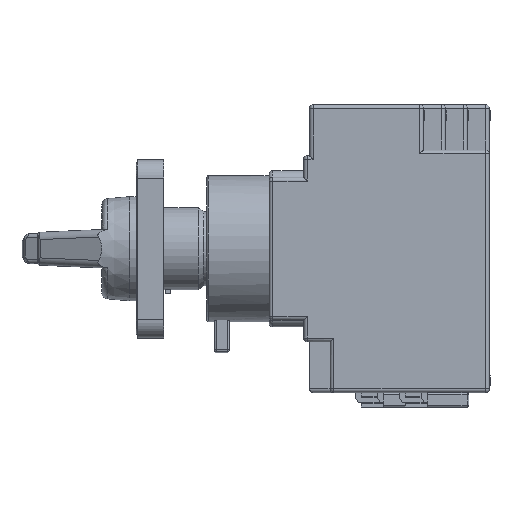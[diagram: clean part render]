
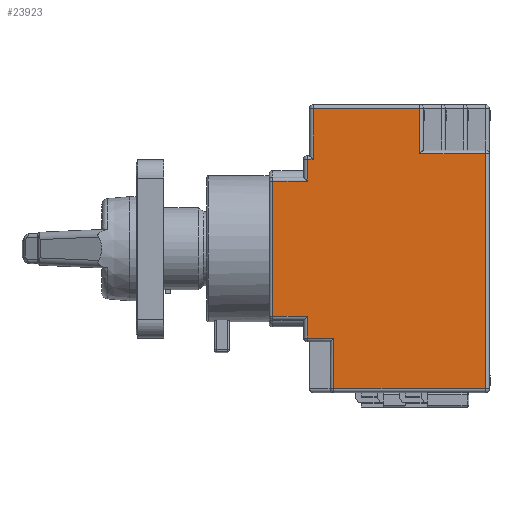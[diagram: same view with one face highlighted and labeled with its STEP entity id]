
A CAD part, left-side view. The second image highlights one B-rep face of the part: STEP entity #23923.
In plain terms, the highlighted planar face has unit normal (-1, 0, 0).
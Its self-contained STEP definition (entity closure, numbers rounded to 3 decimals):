
#124 = LINE ( 'NONE', #25563, #11729 ) ;
#257 = VERTEX_POINT ( 'NONE', #14763 ) ;
#723 = ORIENTED_EDGE ( 'NONE', *, *, #8741, .T. ) ;
#881 = ORIENTED_EDGE ( 'NONE', *, *, #2365, .T. ) ;
#969 = CARTESIAN_POINT ( 'NONE',  ( -30., 48.9, 18.2 ) ) ;
#1125 = FACE_OUTER_BOUND ( 'NONE', #8743, .T. ) ;
#1259 = CARTESIAN_POINT ( 'NONE',  ( -30., 0., -37.7 ) ) ;
#1695 = VECTOR ( 'NONE', #21759, 1000. ) ;
#1809 = EDGE_CURVE ( 'NONE', #9427, #9657, #18766, .T. ) ;
#2137 = CARTESIAN_POINT ( 'NONE',  ( -30., 1., 26.5 ) ) ;
#2223 = CARTESIAN_POINT ( 'NONE',  ( -30., 48.3, -38.7 ) ) ;
#2365 = EDGE_CURVE ( 'NONE', #2698, #10656, #8529, .T. ) ;
#2698 = VERTEX_POINT ( 'NONE', #10851 ) ;
#3624 = CARTESIAN_POINT ( 'NONE',  ( -30., 1., 25.5 ) ) ;
#3744 = VERTEX_POINT ( 'NONE', #23800 ) ;
#4071 = CARTESIAN_POINT ( 'NONE',  ( -30., 1., -37.7 ) ) ;
#4174 = VECTOR ( 'NONE', #24947, 1000. ) ;
#4667 = LINE ( 'NONE', #10897, #13708 ) ;
#4928 = VERTEX_POINT ( 'NONE', #6526 ) ;
#5015 = ORIENTED_EDGE ( 'NONE', *, *, #9103, .T. ) ;
#5084 = EDGE_CURVE ( 'NONE', #10656, #17595, #7635, .T. ) ;
#5375 = ORIENTED_EDGE ( 'NONE', *, *, #22267, .T. ) ;
#5802 = CARTESIAN_POINT ( 'NONE',  ( -30., 18.7, 38.7 ) ) ;
#5895 = CARTESIAN_POINT ( 'NONE',  ( -30., 47.3, 25. ) ) ;
#6526 = CARTESIAN_POINT ( 'NONE',  ( -30., 48.9, 24. ) ) ;
#6548 = CARTESIAN_POINT ( 'NONE',  ( -30., 48.9, 19.2 ) ) ;
#6827 = ORIENTED_EDGE ( 'NONE', *, *, #11959, .T. ) ;
#7388 = VERTEX_POINT ( 'NONE', #12272 ) ;
#7635 = LINE ( 'NONE', #10351, #17858 ) ;
#7917 = EDGE_CURVE ( 'NONE', #7388, #4928, #13302, .T. ) ;
#7923 = DIRECTION ( 'NONE',  ( 0., -1., 0. ) ) ;
#8394 = VECTOR ( 'NONE', #13600, 1000. ) ;
#8486 = CARTESIAN_POINT ( 'NONE',  ( -30., 48.9, -18.2 ) ) ;
#8529 = LINE ( 'NONE', #20130, #19402 ) ;
#8741 = EDGE_CURVE ( 'NONE', #257, #7388, #14195, .T. ) ;
#8743 = EDGE_LOOP ( 'NONE', ( #10243, #9620, #23352, #11332, #18937, #14024, #6827, #25395, #723, #18088, #5375, #13336, #5015, #881 ) ) ;
#9103 = EDGE_CURVE ( 'NONE', #3744, #2698, #25514, .T. ) ;
#9427 = VERTEX_POINT ( 'NONE', #4071 ) ;
#9620 = ORIENTED_EDGE ( 'NONE', *, *, #15445, .T. ) ;
#9657 = VERTEX_POINT ( 'NONE', #3624 ) ;
#9759 = CARTESIAN_POINT ( 'NONE',  ( -30., 48.9, -24. ) ) ;
#10243 = ORIENTED_EDGE ( 'NONE', *, *, #5084, .T. ) ;
#10351 = CARTESIAN_POINT ( 'NONE',  ( -30., 48.9, -25. ) ) ;
#10420 = CARTESIAN_POINT ( 'NONE',  ( -30., 18.7, 37.7 ) ) ;
#10500 = DIRECTION ( 'NONE',  ( -1., 0., 0. ) ) ;
#10516 = LINE ( 'NONE', #6548, #15365 ) ;
#10602 = DIRECTION ( 'NONE',  ( 0., 0., 1. ) ) ;
#10656 = VERTEX_POINT ( 'NONE', #8486 ) ;
#10661 = CARTESIAN_POINT ( 'NONE',  ( -30., 41.8, -24. ) ) ;
#10851 = CARTESIAN_POINT ( 'NONE',  ( -30., 58.2, -18.2 ) ) ;
#10897 = CARTESIAN_POINT ( 'NONE',  ( -30., 48.3, 37.7 ) ) ;
#11118 = VECTOR ( 'NONE', #22097, 1000. ) ;
#11218 = CARTESIAN_POINT ( 'NONE',  ( -30., 58.2, -19.2 ) ) ;
#11332 = ORIENTED_EDGE ( 'NONE', *, *, #19486, .T. ) ;
#11553 = EDGE_CURVE ( 'NONE', #22373, #3744, #16539, .T. ) ;
#11729 = VECTOR ( 'NONE', #13443, 1000. ) ;
#11959 = EDGE_CURVE ( 'NONE', #22216, #16303, #20331, .T. ) ;
#12170 = EDGE_CURVE ( 'NONE', #9657, #22216, #124, .T. ) ;
#12272 = CARTESIAN_POINT ( 'NONE',  ( -30., 47.3, 24. ) ) ;
#12508 = DIRECTION ( 'NONE',  ( 0., 0., -1. ) ) ;
#13230 = VERTEX_POINT ( 'NONE', #19244 ) ;
#13302 = LINE ( 'NONE', #25813, #1695 ) ;
#13336 = ORIENTED_EDGE ( 'NONE', *, *, #11553, .T. ) ;
#13390 = VECTOR ( 'NONE', #10602, 1000. ) ;
#13443 = DIRECTION ( 'NONE',  ( 0., 1., 0. ) ) ;
#13600 = DIRECTION ( 'NONE',  ( 0., -1., 0. ) ) ;
#13708 = VECTOR ( 'NONE', #19095, 1000. ) ;
#13851 = LINE ( 'NONE', #1259, #8394 ) ;
#14024 = ORIENTED_EDGE ( 'NONE', *, *, #12170, .T. ) ;
#14195 = LINE ( 'NONE', #5895, #14831 ) ;
#14763 = CARTESIAN_POINT ( 'NONE',  ( -30., 47.3, 37.7 ) ) ;
#14797 = DIRECTION ( 'NONE',  ( 0., 0., -1. ) ) ;
#14831 = VECTOR ( 'NONE', #22237, 1000. ) ;
#15175 = AXIS2_PLACEMENT_3D ( 'NONE', #2223, #10500, #24702 ) ;
#15356 = VERTEX_POINT ( 'NONE', #10661 ) ;
#15365 = VECTOR ( 'NONE', #14797, 1000. ) ;
#15445 = EDGE_CURVE ( 'NONE', #17595, #15356, #25246, .T. ) ;
#15892 = VECTOR ( 'NONE', #23825, 1000. ) ;
#15987 = CARTESIAN_POINT ( 'NONE',  ( -30., 59.2, 18.2 ) ) ;
#16303 = VERTEX_POINT ( 'NONE', #10420 ) ;
#16539 = LINE ( 'NONE', #15987, #11118 ) ;
#16580 = PLANE ( 'NONE',  #15175 ) ;
#17595 = VERTEX_POINT ( 'NONE', #9759 ) ;
#17858 = VECTOR ( 'NONE', #12508, 1000. ) ;
#18072 = DIRECTION ( 'NONE',  ( 0., 0., 1. ) ) ;
#18088 = ORIENTED_EDGE ( 'NONE', *, *, #7917, .T. ) ;
#18766 = LINE ( 'NONE', #2137, #13390 ) ;
#18937 = ORIENTED_EDGE ( 'NONE', *, *, #1809, .T. ) ;
#19095 = DIRECTION ( 'NONE',  ( 0., 1., 0. ) ) ;
#19244 = CARTESIAN_POINT ( 'NONE',  ( -30., 41.8, -37.7 ) ) ;
#19402 = VECTOR ( 'NONE', #7923, 1000. ) ;
#19486 = EDGE_CURVE ( 'NONE', #13230, #9427, #13851, .T. ) ;
#20130 = CARTESIAN_POINT ( 'NONE',  ( -30., 49.9, -18.2 ) ) ;
#20331 = LINE ( 'NONE', #5802, #26337 ) ;
#20631 = LINE ( 'NONE', #21807, #15892 ) ;
#21759 = DIRECTION ( 'NONE',  ( 0., 1., 0. ) ) ;
#21807 = CARTESIAN_POINT ( 'NONE',  ( -30., 41.8, -38.7 ) ) ;
#22097 = DIRECTION ( 'NONE',  ( 0., 1., 0. ) ) ;
#22216 = VERTEX_POINT ( 'NONE', #22777 ) ;
#22237 = DIRECTION ( 'NONE',  ( 0., 0., -1. ) ) ;
#22267 = EDGE_CURVE ( 'NONE', #4928, #22373, #10516, .T. ) ;
#22373 = VERTEX_POINT ( 'NONE', #969 ) ;
#22777 = CARTESIAN_POINT ( 'NONE',  ( -30., 18.7, 25.5 ) ) ;
#23018 = CARTESIAN_POINT ( 'NONE',  ( -30., 42.8, -24. ) ) ;
#23352 = ORIENTED_EDGE ( 'NONE', *, *, #24261, .T. ) ;
#23546 = EDGE_CURVE ( 'NONE', #16303, #257, #4667, .T. ) ;
#23800 = CARTESIAN_POINT ( 'NONE',  ( -30., 58.2, 18.2 ) ) ;
#23825 = DIRECTION ( 'NONE',  ( 0., 0., -1. ) ) ;
#23923 = ADVANCED_FACE ( 'NONE', ( #1125 ), #16580, .T. ) ;
#24261 = EDGE_CURVE ( 'NONE', #15356, #13230, #20631, .T. ) ;
#24702 = DIRECTION ( 'NONE',  ( 0., 0., 1. ) ) ;
#24947 = DIRECTION ( 'NONE',  ( 0., -1., 0. ) ) ;
#25246 = LINE ( 'NONE', #23018, #4174 ) ;
#25395 = ORIENTED_EDGE ( 'NONE', *, *, #23546, .T. ) ;
#25415 = DIRECTION ( 'NONE',  ( 0., 0., -1. ) ) ;
#25514 = LINE ( 'NONE', #11218, #26145 ) ;
#25563 = CARTESIAN_POINT ( 'NONE',  ( -30., 17.7, 25.5 ) ) ;
#25813 = CARTESIAN_POINT ( 'NONE',  ( -30., 49.9, 24. ) ) ;
#26145 = VECTOR ( 'NONE', #25415, 1000. ) ;
#26337 = VECTOR ( 'NONE', #18072, 1000. ) ;
